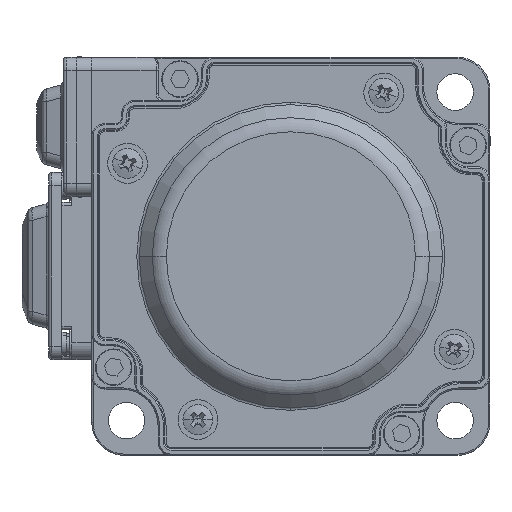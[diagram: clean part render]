
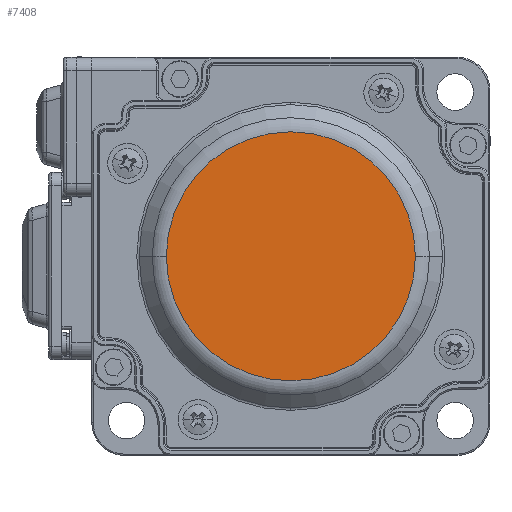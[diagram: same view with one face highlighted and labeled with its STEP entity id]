
A CAD part, left-side view. The second image highlights one B-rep face of the part: STEP entity #7408.
In plain terms, the highlighted planar face has unit normal (-1, 0, 0).
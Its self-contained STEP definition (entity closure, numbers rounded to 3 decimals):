
#1485 = ORIENTED_EDGE ( 'NONE', *, *, #13267, .T. ) ;
#1523 = DIRECTION ( 'NONE',  ( 0., 1., 0. ) ) ;
#3044 = VERTEX_POINT ( 'NONE', #23516 ) ;
#6115 = AXIS2_PLACEMENT_3D ( 'NONE', #33089, #36558, #1523 ) ;
#7408 = ADVANCED_FACE ( 'NONE', ( #39829 ), #22172, .F. ) ;
#9916 = CARTESIAN_POINT ( 'NONE',  ( -75.8, 18.757, 0. ) ) ;
#11867 = AXIS2_PLACEMENT_3D ( 'NONE', #15031, #29570, #25855 ) ;
#13267 = EDGE_CURVE ( 'NONE', #21468, #3044, #40808, .T. ) ;
#15031 = CARTESIAN_POINT ( 'NONE',  ( -75.8, 0., 0. ) ) ;
#16233 = EDGE_LOOP ( 'NONE', ( #1485, #39353 ) ) ;
#20189 = EDGE_CURVE ( 'NONE', #3044, #21468, #41472, .T. ) ;
#20505 = DIRECTION ( 'NONE',  ( 0., 1., 0. ) ) ;
#21468 = VERTEX_POINT ( 'NONE', #9916 ) ;
#22172 = PLANE ( 'NONE',  #36402 ) ;
#23516 = CARTESIAN_POINT ( 'NONE',  ( -75.8, -18.757, 0. ) ) ;
#25855 = DIRECTION ( 'NONE',  ( 0., 1., 0. ) ) ;
#27280 = DIRECTION ( 'NONE',  ( 1., 0., 0. ) ) ;
#29570 = DIRECTION ( 'NONE',  ( -1., 0., 0. ) ) ;
#33089 = CARTESIAN_POINT ( 'NONE',  ( -75.8, 0., 0. ) ) ;
#36402 = AXIS2_PLACEMENT_3D ( 'NONE', #44429, #27280, #20505 ) ;
#36558 = DIRECTION ( 'NONE',  ( -1., 0., 0. ) ) ;
#39353 = ORIENTED_EDGE ( 'NONE', *, *, #20189, .T. ) ;
#39829 = FACE_OUTER_BOUND ( 'NONE', #16233, .T. ) ;
#40808 = CIRCLE ( 'NONE', #6115, 18.757 ) ;
#41472 = CIRCLE ( 'NONE', #11867, 18.757 ) ;
#44429 = CARTESIAN_POINT ( 'NONE',  ( -75.8, 20., 0. ) ) ;
